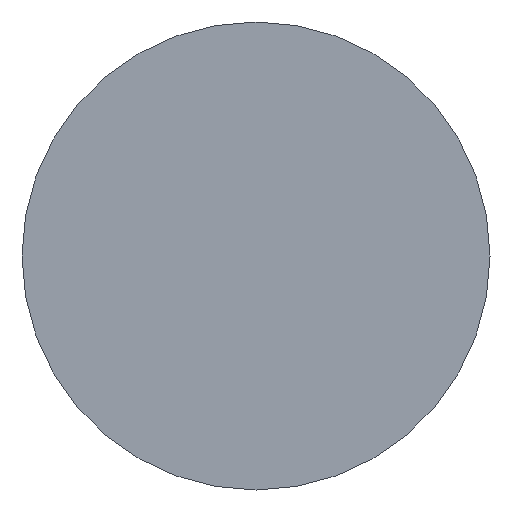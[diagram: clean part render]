
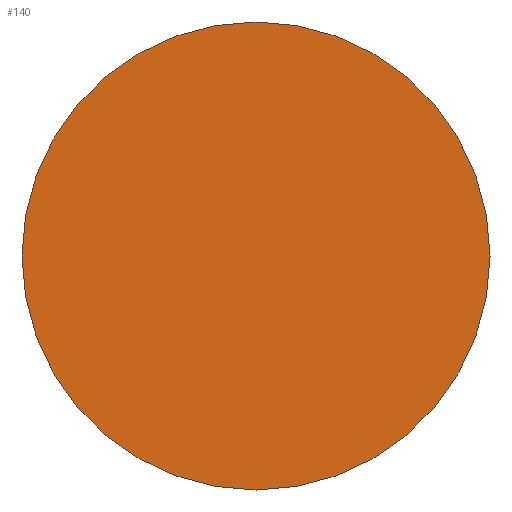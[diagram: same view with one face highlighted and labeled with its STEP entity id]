
A CAD part, front view. The second image highlights one B-rep face of the part: STEP entity #140.
In plain terms, the highlighted planar face has unit normal (0, -1, 0).
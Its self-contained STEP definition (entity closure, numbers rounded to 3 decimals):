
#31 = CYLINDRICAL_SURFACE('',#32,4.);
#32 = AXIS2_PLACEMENT_3D('',#33,#34,#35);
#33 = CARTESIAN_POINT('',(30.,-35.5,11.5));
#34 = DIRECTION('',(0.,1.,0.));
#35 = DIRECTION('',(0.,-0.,1.));
#56 = VERTEX_POINT('',#57);
#57 = CARTESIAN_POINT('',(30.,-35.5,15.5));
#78 = EDGE_CURVE('',#56,#56,#79,.T.);
#79 = SURFACE_CURVE('',#80,(#85,#92),.PCURVE_S1.);
#80 = CIRCLE('',#81,4.);
#81 = AXIS2_PLACEMENT_3D('',#82,#83,#84);
#82 = CARTESIAN_POINT('',(30.,-35.5,11.5));
#83 = DIRECTION('',(0.,1.,0.));
#84 = DIRECTION('',(0.,-0.,1.));
#85 = PCURVE('',#31,#86);
#86 = DEFINITIONAL_REPRESENTATION('',(#87),#91);
#87 = LINE('',#88,#89);
#88 = CARTESIAN_POINT('',(0.,0.));
#89 = VECTOR('',#90,1.);
#90 = DIRECTION('',(1.,0.));
#91 = ( GEOMETRIC_REPRESENTATION_CONTEXT(2) 
PARAMETRIC_REPRESENTATION_CONTEXT() REPRESENTATION_CONTEXT('2D SPACE',''
  ) );
#92 = PCURVE('',#93,#98);
#93 = PLANE('',#94);
#94 = AXIS2_PLACEMENT_3D('',#95,#96,#97);
#95 = CARTESIAN_POINT('',(30.,-35.5,11.5));
#96 = DIRECTION('',(0.,1.,0.));
#97 = DIRECTION('',(0.,-0.,1.));
#98 = DEFINITIONAL_REPRESENTATION('',(#99),#103);
#99 = CIRCLE('',#100,4.);
#100 = AXIS2_PLACEMENT_2D('',#101,#102);
#101 = CARTESIAN_POINT('',(0.,0.));
#102 = DIRECTION('',(1.,0.));
#103 = ( GEOMETRIC_REPRESENTATION_CONTEXT(2) 
PARAMETRIC_REPRESENTATION_CONTEXT() REPRESENTATION_CONTEXT('2D SPACE',''
  ) );
#140 = ADVANCED_FACE('',(#141),#93,.F.);
#141 = FACE_BOUND('',#142,.T.);
#142 = EDGE_LOOP('',(#143));
#143 = ORIENTED_EDGE('',*,*,#78,.F.);
